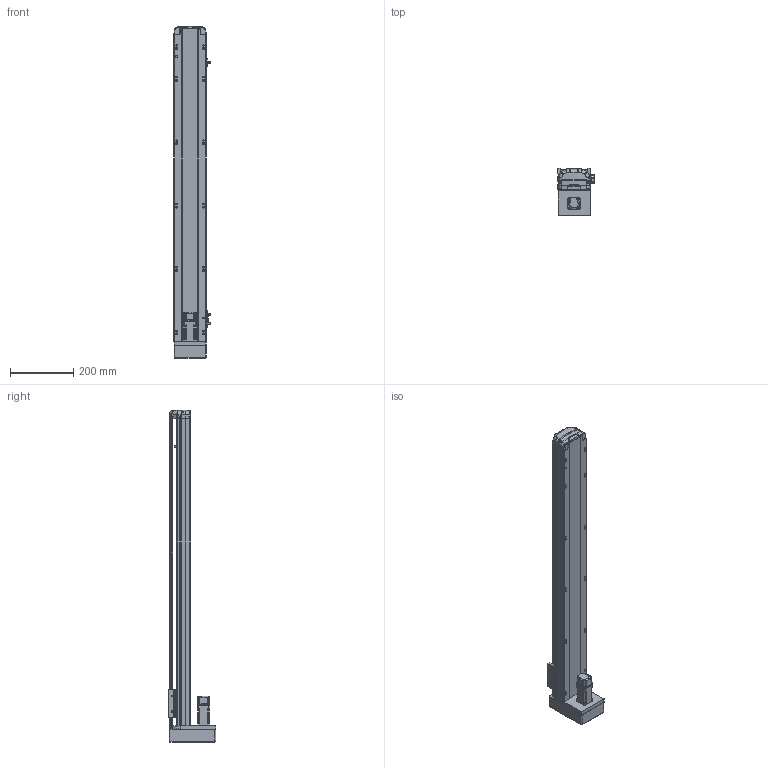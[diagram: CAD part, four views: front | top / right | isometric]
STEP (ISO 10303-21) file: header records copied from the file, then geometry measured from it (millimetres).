
FILE_DESCRIPTION (( 'STEP AP214' ), '1' );
FILE_NAME ('RTH10-XX-800-M-M10-C4.STEP', '2025-10-25T05:47:11', ( 'Microsoft' ), ( 'Microsoft' ), 'SwSTEP 2.0', 'SolidWorks 2018', '' );
FILE_SCHEMA (( 'AUTOMOTIVE_DESIGN' ));
Length unit declared in the file: millimetre
Products named in the file (10): N_RTH12-M-018-裔赽^RTH10-XX-100-M-M10-C4; N_OMRON EE-SX672 传感器^RTH10-XX-100-M-M10-C4; N_P10^RTH10-XX-100-M-M10-C4; N_RTH12-M-008-萇儂啣^RTH10-XX-100-M-M10-C4; RTH10-XX-800-M-M10-C4; N_RTH12-M-007P-奻裔^RTH10-XX-100-M-M10-C4; N_RTH12-GY-004-賑釱^RTH10-XX-100-M-M10-C4; N_RTH12-M-011P-臏倰第菁釱^RTH10-XX-100-M-M10-C4; N_RTH13-L-012覜茼え俋离^RTH10-XX-100-M-M10-C4; N_RTH12-GY-001P^RTH10-XX-100-M-M10-C4
Assembly tree (11 placements, depth 2):
  RTH10-XX-800-M-M10-C4
    N_RTH12-M-011P-臏倰第菁釱^RTH10-XX-100-M-M10-C4
    N_RTH13-L-012覜茼え俋离^RTH10-XX-100-M-M10-C4
    N_OMRON EE-SX672 传感器^RTH10-XX-100-M-M10-C4  x3
    N_P10^RTH10-XX-100-M-M10-C4
    N_RTH12-M-007P-奻裔^RTH10-XX-100-M-M10-C4
    N_RTH12-M-008-萇儂啣^RTH10-XX-100-M-M10-C4
    N_RTH12-M-018-裔赽^RTH10-XX-100-M-M10-C4
    N_RTH12-GY-004-賑釱^RTH10-XX-100-M-M10-C4
    N_RTH12-GY-001P^RTH10-XX-100-M-M10-C4
Bounding box: 116.5 x 149 x 1047.31 mm (x, y, z)
Volume: 4675480.6 mm3; surface area: 701887.1 mm2
Topology: 10 solids, 12 shells, 1953 faces, 5461 edges, 3583 vertices
Faces by surface type: plane 959, cylinder 487, bspline 472, cone 29, sphere 4, torus 2
Entity records: 59009 total; most frequent: CARTESIAN_POINT 23387, ORIENTED_EDGE 7994, DIRECTION 6159, EDGE_CURVE 4003, VERTEX_POINT 2627, LINE 2097, VECTOR 2097, AXIS2_PLACEMENT_3D 2031
